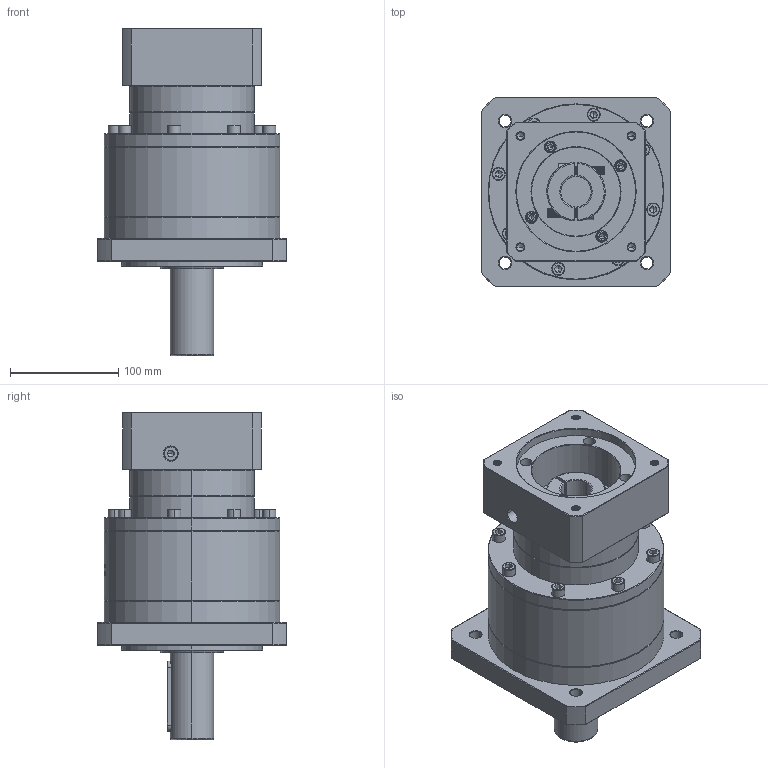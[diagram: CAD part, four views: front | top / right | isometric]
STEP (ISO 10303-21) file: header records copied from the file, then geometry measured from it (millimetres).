
FILE_DESCRIPTION (( 'STEP AP214' ), '1' );
FILE_NAME ('ZF160-D40-L2-28-110-145-M8.step', '2023-03-22T03:56:58', ( '' ), ( '' ), 'SwSTEP 2.0', 'SolidWorks 2016', '' );
FILE_SCHEMA (( 'AUTOMOTIVE_DESIGN' ));
Length unit declared in the file: millimetre
Products named in the file (1): ZF160-D40-L2-28-110-145-M8
Bounding box: 175 x 175 x 301.7 mm (x, y, z)
Volume: 3787063.6 mm3; surface area: 280176.2 mm2
Topology: 6 solids, 6 shells, 1852 faces, 4669 edges, 2942 vertices
Faces by surface type: plane 745, cylinder 482, cone 355, bspline 212, torus 58
Entity records: 98736 total; most frequent: CARTESIAN_POINT 36216, ORIENTED_EDGE 9230, DIRECTION 8102, EDGE_CURVE 4615, VERTEX_POINT 2942, AXIS2_PLACEMENT_3D 2805, LINE 2492, VECTOR 2492
